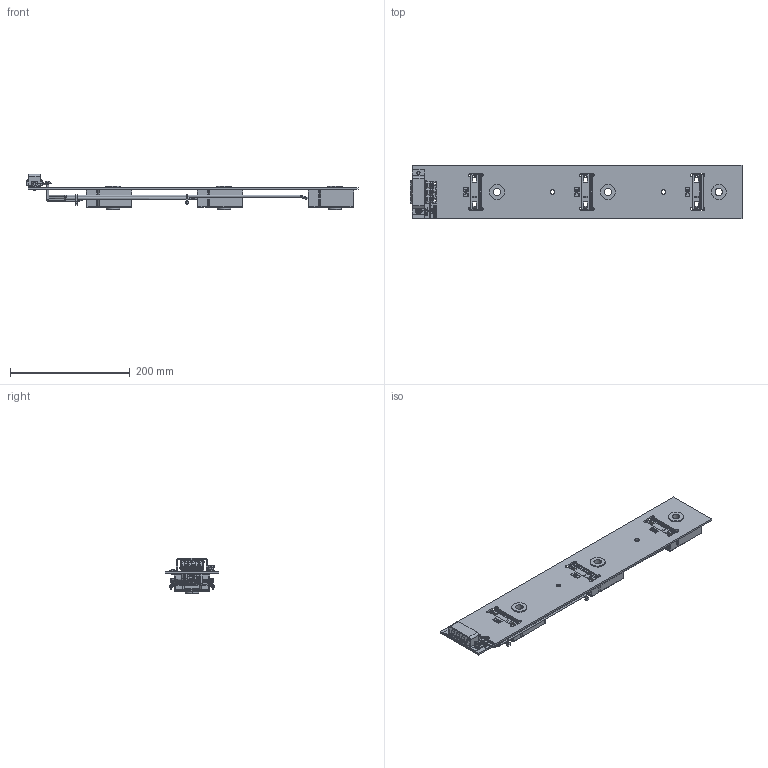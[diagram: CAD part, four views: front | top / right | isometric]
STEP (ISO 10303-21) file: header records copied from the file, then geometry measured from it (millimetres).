
FILE_DESCRIPTION (( 'STEP AP214' ), '1' );
FILE_NAME ('adapter_954010_-_0.STEP', '2021-08-24T09:10:36', ( '' ), ( '' ), 'SwSTEP 2.0', 'SolidWorks 2015', '' );
FILE_SCHEMA (( 'AUTOMOTIVE_DESIGN' ));
Length unit declared in the file: millimetre
Products named in the file (24): STITEK_191149_-_0_Z02; STITEK_191149_-_0_Z01; SVORKA_WAGO_2_5_QMM_SEDA_261-311_NA009587_-_0_Z00; Transformator_CLB_22R_NA012225_-_0_Z00; STITEK_191149_-_0_Z00; SVORKA_WAGO_2_5_QMM_SEDA_261-321_NA009584_-_0_Z00; vodic_3k_VODIC_3k_MA_-_0_Z00; kryt_185337_-_0_Z00; stitek_191154_-_0_Z00; VLOZKA_PLOMBOVACI_530766_-_0_Rozvinuto; VICKO_WAGO_SEDE_261-371_NA009515_-_0_Z00; vodic_1k_VODIC_1k_MA_-_0_Z00; STITEK_191150_-_0_Z00; vodic_2k_VODIC_2k_MA_-_0_Z00; Nyt_Al_3x8__CSN_022330_NA002504_-_0_Z00-s; pouzdro_210083_-_0_Z00; Svorkovnnice_WAGO_-_SESTAVA_Svorkovnnice_WAGO_-_0_Z00; Stahovaci_pasek_NA002362_-_0_sta§enì; deska_504705_-_0_Z00; Podlozka_CSN_021702_3_2_3112102017_-_0_Podlo§ka B 3.20 ¬SN 021702; vodic_3l_VODIC_3l_MA_-_0_Z00; vodic_2l_VODIC_2l_MA_-_0_Z00; adapter_954010_-_0; vodic_1l_VODIC_1l_MA_-_0_Z00
Assembly tree (34 placements, depth 3):
  adapter_954010_-_0
    deska_504705_-_0_Z00
    Svorkovnnice_WAGO_-_SESTAVA_Svorkovnnice_WAGO_-_0_Z00
      VICKO_WAGO_SEDE_261-371_NA009515_-_0_Z00
      SVORKA_WAGO_2_5_QMM_SEDA_261-311_NA009587_-_0_Z00  x5
      SVORKA_WAGO_2_5_QMM_SEDA_261-321_NA009584_-_0_Z00
    kryt_185337_-_0_Z00
    pouzdro_210083_-_0_Z00  x3
    VLOZKA_PLOMBOVACI_530766_-_0_Rozvinuto
    Podlozka_CSN_021702_3_2_3112102017_-_0_Podlo§ka B 3.20 ¬SN 021702
    Nyt_Al_3x8__CSN_022330_NA002504_-_0_Z00-s
    Transformator_CLB_22R_NA012225_-_0_Z00  x3
    STITEK_191149_-_0_Z00
    STITEK_191149_-_0_Z01
    STITEK_191149_-_0_Z02
    stitek_191154_-_0_Z00
    STITEK_191150_-_0_Z00
    vodic_1k_VODIC_1k_MA_-_0_Z00
    vodic_2k_VODIC_2k_MA_-_0_Z00
    vodic_3k_VODIC_3k_MA_-_0_Z00
    vodic_1l_VODIC_1l_MA_-_0_Z00
    vodic_2l_VODIC_2l_MA_-_0_Z00
    vodic_3l_VODIC_3l_MA_-_0_Z00
    Stahovaci_pasek_NA002362_-_0_sta§enì  x4
Bounding box: 554.02 x 90 x 59 mm (x, y, z)
Volume: 536360.8 mm3; surface area: 223237.6 mm2
Topology: 33 solids, 33 shells, 3802 faces, 10421 edges, 6645 vertices
Faces by surface type: plane 2398, cylinder 704, bspline 453, sphere 135, torus 106, cone 6
Entity records: 100458 total; most frequent: CARTESIAN_POINT 37895, ORIENTED_EDGE 12110, DIRECTION 9551, EDGE_CURVE 6055, VECTOR 4157, LINE 4157, VERTEX_POINT 3941, AXIS2_PLACEMENT_3D 2697
